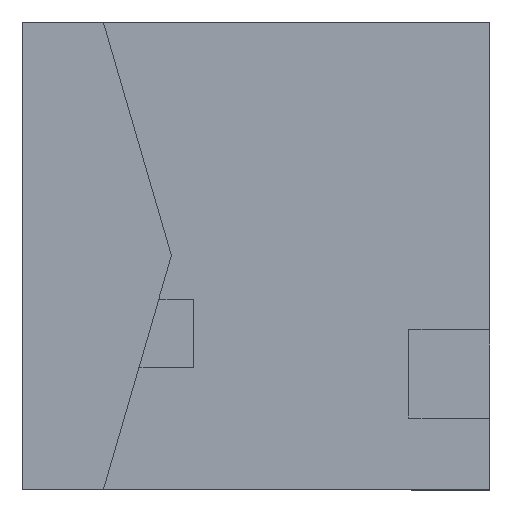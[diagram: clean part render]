
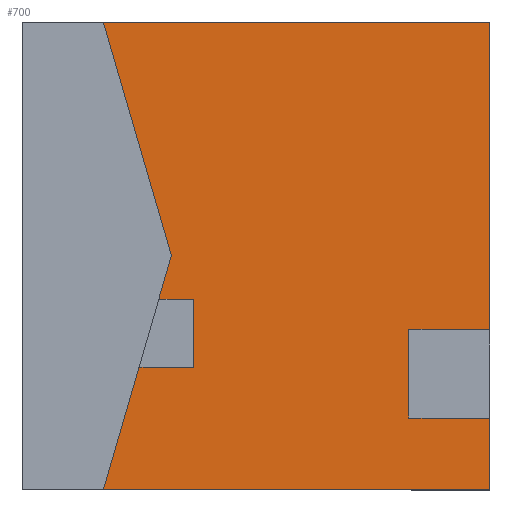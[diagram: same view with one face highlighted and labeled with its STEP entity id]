
A CAD part, top view. The second image highlights one B-rep face of the part: STEP entity #700.
In plain terms, the highlighted planar face has unit normal (0, 0, 1).
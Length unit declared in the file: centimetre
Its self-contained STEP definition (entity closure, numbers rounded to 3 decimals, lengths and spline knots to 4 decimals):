
#11 = DIRECTION ( 'NONE',  ( 0., 0., 1. ) ) ;
#14 = AXIS2_PLACEMENT_3D ( 'NONE', #233, #11, #317 ) ;
#36 = EDGE_CURVE ( 'NONE', #225, #792, #446, .T. ) ;
#45 = LINE ( 'NONE', #262, #502 ) ;
#63 = LINE ( 'NONE', #291, #218 ) ;
#82 = CARTESIAN_POINT ( 'NONE',  ( 827.1515, 152.5318, 1000. ) ) ;
#87 = EDGE_LOOP ( 'NONE', ( #758, #597, #888, #464, #846, #839, #163, #248, #816, #97, #776, #687, #402 ) ) ;
#88 = EDGE_CURVE ( 'NONE', #742, #225, #300, .T. ) ;
#93 = EDGE_CURVE ( 'NONE', #792, #395, #106, .T. ) ;
#97 = ORIENTED_EDGE ( 'NONE', *, *, #232, .T. ) ;
#100 = CARTESIAN_POINT ( 'NONE',  ( 827.1515, 342.2346, 1000. ) ) ;
#106 = LINE ( 'NONE', #890, #834 ) ;
#119 = LINE ( 'NONE', #405, #278 ) ;
#154 = CARTESIAN_POINT ( 'NONE',  ( 1000., 1000., 1000. ) ) ;
#163 = ORIENTED_EDGE ( 'NONE', *, *, #93, .F. ) ;
#189 = DIRECTION ( 'NONE',  ( 1., 0., 0. ) ) ;
#190 = DIRECTION ( 'NONE',  ( 0.28, 0.96, 0. ) ) ;
#191 = CARTESIAN_POINT ( 'NONE',  ( 249.5327, 261.3574, 1000. ) ) ;
#195 = VECTOR ( 'NONE', #865, 100. ) ;
#197 = CARTESIAN_POINT ( 'NONE',  ( 1000., 152.5318, 1000. ) ) ;
#202 = CARTESIAN_POINT ( 'NONE',  ( 319.0469, 500., 1000. ) ) ;
#210 = LINE ( 'NONE', #354, #424 ) ;
#218 = VECTOR ( 'NONE', #775, 100. ) ;
#220 = CARTESIAN_POINT ( 'NONE',  ( 366.5979, 407.1726, 1000. ) ) ;
#225 = VERTEX_POINT ( 'NONE', #100 ) ;
#226 = LINE ( 'NONE', #154, #556 ) ;
#232 = EDGE_CURVE ( 'NONE', #742, #607, #745, .T. ) ;
#233 = CARTESIAN_POINT ( 'NONE',  ( 0., 0., 1000. ) ) ;
#240 = VERTEX_POINT ( 'NONE', #220 ) ;
#248 = ORIENTED_EDGE ( 'NONE', *, *, #36, .F. ) ;
#262 = CARTESIAN_POINT ( 'NONE',  ( 319.0469, 500., 1000. ) ) ;
#263 = EDGE_CURVE ( 'NONE', #462, #395, #226, .T. ) ;
#275 = VERTEX_POINT ( 'NONE', #202 ) ;
#278 = VECTOR ( 'NONE', #900, 100. ) ;
#284 = EDGE_CURVE ( 'NONE', #655, #240, #512, .T. ) ;
#290 = DIRECTION ( 'NONE',  ( 0., 1., 0. ) ) ;
#291 = CARTESIAN_POINT ( 'NONE',  ( 176.1011, 261.3574, 1000. ) ) ;
#295 = EDGE_CURVE ( 'NONE', #858, #462, #706, .T. ) ;
#300 = LINE ( 'NONE', #584, #195 ) ;
#302 = EDGE_CURVE ( 'NONE', #401, #275, #917, .T. ) ;
#315 = VECTOR ( 'NONE', #363, 100. ) ;
#317 = DIRECTION ( 'NONE',  ( 1., 0., 0. ) ) ;
#350 = DIRECTION ( 'NONE',  ( -1., 0., 0. ) ) ;
#352 = DIRECTION ( 'NONE',  ( 0., 1., 0. ) ) ;
#354 = CARTESIAN_POINT ( 'NONE',  ( 0., 1000., 1000. ) ) ;
#356 = VERTEX_POINT ( 'NONE', #701 ) ;
#363 = DIRECTION ( 'NONE',  ( 1., 0., 0. ) ) ;
#393 = CARTESIAN_POINT ( 'NONE',  ( 1000., 1000., 1000. ) ) ;
#395 = VERTEX_POINT ( 'NONE', #197 ) ;
#401 = VERTEX_POINT ( 'NONE', #549 ) ;
#402 = ORIENTED_EDGE ( 'NONE', *, *, #302, .F. ) ;
#405 = CARTESIAN_POINT ( 'NONE',  ( 176.1011, 407.1726, 1000. ) ) ;
#418 = CARTESIAN_POINT ( 'NONE',  ( 1000., 0., 1000. ) ) ;
#424 = VECTOR ( 'NONE', #350, 100. ) ;
#441 = VERTEX_POINT ( 'NONE', #191 ) ;
#446 = LINE ( 'NONE', #82, #479 ) ;
#462 = VERTEX_POINT ( 'NONE', #418 ) ;
#464 = ORIENTED_EDGE ( 'NONE', *, *, #820, .F. ) ;
#465 = DIRECTION ( 'NONE',  ( 0., 1., 0. ) ) ;
#479 = VECTOR ( 'NONE', #497, 100. ) ;
#492 = VECTOR ( 'NONE', #923, 100. ) ;
#497 = DIRECTION ( 'NONE',  ( 0., -1., 0. ) ) ;
#502 = VECTOR ( 'NONE', #190, 100. ) ;
#512 = LINE ( 'NONE', #848, #539 ) ;
#519 = CARTESIAN_POINT ( 'NONE',  ( 827.1515, 152.5318, 1000. ) ) ;
#523 = EDGE_CURVE ( 'NONE', #441, #655, #63, .T. ) ;
#528 = FACE_OUTER_BOUND ( 'NONE', #87, .T. ) ;
#535 = EDGE_CURVE ( 'NONE', #607, #356, #210, .T. ) ;
#539 = VECTOR ( 'NONE', #352, 100. ) ;
#549 = CARTESIAN_POINT ( 'NONE',  ( 292.0072, 407.1726, 1000. ) ) ;
#556 = VECTOR ( 'NONE', #290, 100. ) ;
#567 = CARTESIAN_POINT ( 'NONE',  ( 319.0469, 500., 1000. ) ) ;
#584 = CARTESIAN_POINT ( 'NONE',  ( 827.1515, 342.2346, 1000. ) ) ;
#597 = ORIENTED_EDGE ( 'NONE', *, *, #284, .F. ) ;
#607 = VERTEX_POINT ( 'NONE', #717 ) ;
#655 = VERTEX_POINT ( 'NONE', #874 ) ;
#684 = CARTESIAN_POINT ( 'NONE',  ( 173.4019, 0., 1000. ) ) ;
#687 = ORIENTED_EDGE ( 'NONE', *, *, #921, .F. ) ;
#700 = ADVANCED_FACE ( 'NONE', ( #528 ), #881, .T. ) ;
#701 = CARTESIAN_POINT ( 'NONE',  ( 173.4019, 1000., 1000. ) ) ;
#706 = LINE ( 'NONE', #720, #315 ) ;
#714 = VECTOR ( 'NONE', #465, 100. ) ;
#717 = CARTESIAN_POINT ( 'NONE',  ( 1000., 1000., 1000. ) ) ;
#720 = CARTESIAN_POINT ( 'NONE',  ( 0., 0., 1000. ) ) ;
#726 = VECTOR ( 'NONE', #855, 100. ) ;
#733 = CARTESIAN_POINT ( 'NONE',  ( 1000., 342.2346, 1000. ) ) ;
#742 = VERTEX_POINT ( 'NONE', #733 ) ;
#745 = LINE ( 'NONE', #393, #714 ) ;
#758 = ORIENTED_EDGE ( 'NONE', *, *, #847, .F. ) ;
#775 = DIRECTION ( 'NONE',  ( 1., 0., 0. ) ) ;
#776 = ORIENTED_EDGE ( 'NONE', *, *, #535, .T. ) ;
#777 = LINE ( 'NONE', #918, #726 ) ;
#792 = VERTEX_POINT ( 'NONE', #519 ) ;
#816 = ORIENTED_EDGE ( 'NONE', *, *, #88, .F. ) ;
#820 = EDGE_CURVE ( 'NONE', #858, #441, #45, .T. ) ;
#834 = VECTOR ( 'NONE', #189, 100. ) ;
#839 = ORIENTED_EDGE ( 'NONE', *, *, #263, .T. ) ;
#846 = ORIENTED_EDGE ( 'NONE', *, *, #295, .T. ) ;
#847 = EDGE_CURVE ( 'NONE', #240, #401, #119, .T. ) ;
#848 = CARTESIAN_POINT ( 'NONE',  ( 366.5979, 261.3574, 1000. ) ) ;
#855 = DIRECTION ( 'NONE',  ( -0.28, 0.96, 0. ) ) ;
#858 = VERTEX_POINT ( 'NONE', #684 ) ;
#865 = DIRECTION ( 'NONE',  ( -1., 0., 0. ) ) ;
#874 = CARTESIAN_POINT ( 'NONE',  ( 366.5979, 261.3574, 1000. ) ) ;
#881 = PLANE ( 'NONE',  #14 ) ;
#888 = ORIENTED_EDGE ( 'NONE', *, *, #523, .F. ) ;
#890 = CARTESIAN_POINT ( 'NONE',  ( 827.1515, 152.5318, 1000. ) ) ;
#900 = DIRECTION ( 'NONE',  ( -1., 0., 0. ) ) ;
#917 = LINE ( 'NONE', #567, #492 ) ;
#918 = CARTESIAN_POINT ( 'NONE',  ( 173.4019, 1000., 1000. ) ) ;
#921 = EDGE_CURVE ( 'NONE', #275, #356, #777, .T. ) ;
#923 = DIRECTION ( 'NONE',  ( 0.28, 0.96, 0. ) ) ;
